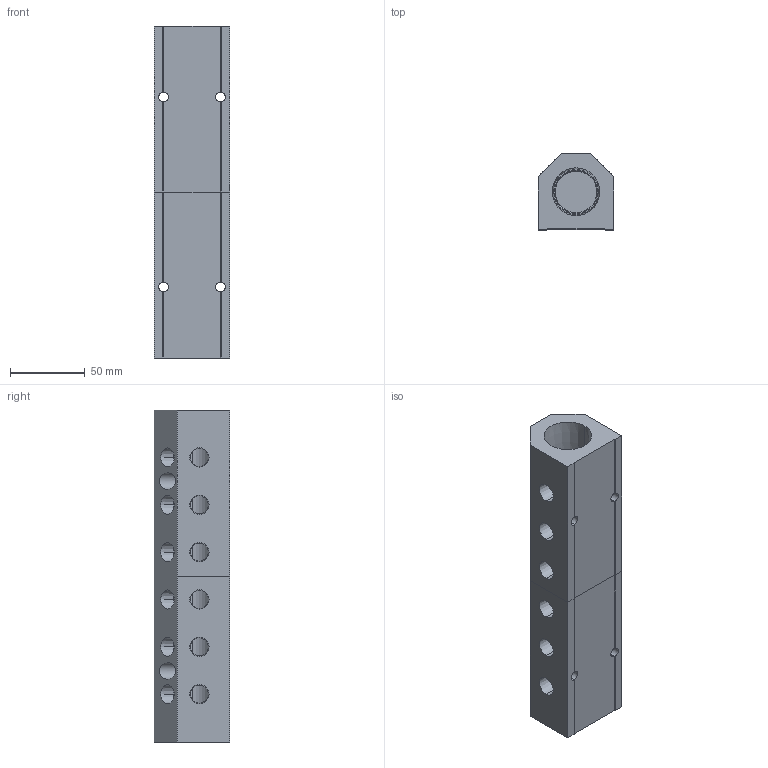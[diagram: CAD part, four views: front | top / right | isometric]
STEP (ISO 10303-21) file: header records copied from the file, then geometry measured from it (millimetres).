
FILE_DESCRIPTION (( 'STEP AP214' ), '1' );
FILE_NAME ('ALM6ABC-N4N16-222RB.STEP', '2023-11-02T06:11:58', ( '' ), ( '' ), 'SwSTEP 2.0', 'SolidWorks 2020', '' );
FILE_SCHEMA (( 'AUTOMOTIVE_DESIGN' ));
Length unit declared in the file: millimetre
Products named in the file (1): ALM6ABC-N4N16-222RB
Bounding box: 50.8 x 50.8 x 222 mm (x, y, z)
Volume: 339485 mm3; surface area: 77773.3 mm2
Topology: 2 solids, 2 shells, 383 faces, 1022 edges, 676 vertices
Faces by surface type: plane 244, bspline 71, cone 44, cylinder 24
Entity records: 21386 total; most frequent: CARTESIAN_POINT 8693, ORIENTED_EDGE 2044, DIRECTION 1526, EDGE_CURVE 1022, LINE 732, VECTOR 732, VERTEX_POINT 676, EDGE_LOOP 460
